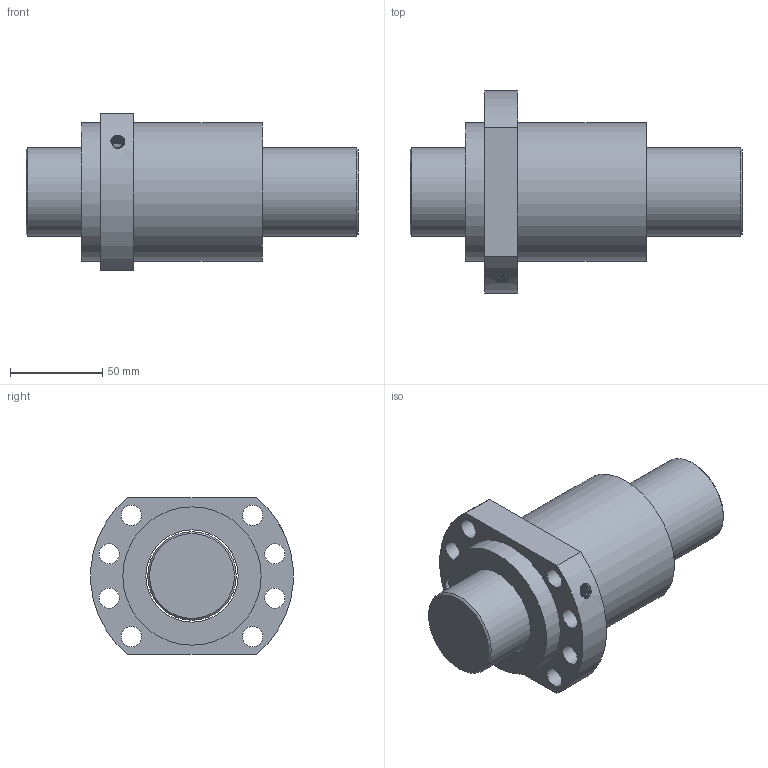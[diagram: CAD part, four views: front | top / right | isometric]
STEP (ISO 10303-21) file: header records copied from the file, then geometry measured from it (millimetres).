
FILE_DESCRIPTION (( 'STEP AP203' ), '1' );
FILE_NAME ('SFA5020-3.8.STEP', '2023-08-16T08:31:55', ( '' ), ( '' ), 'SwSTEP 2.0', 'SolidWorks 2022', '' );
FILE_SCHEMA (( 'CONFIG_CONTROL_DESIGN' ));
Length unit declared in the file: millimetre
Products named in the file (1): SFA5020-3.8
Bounding box: 180 x 109.65 x 85 mm (x, y, z)
Volume: 621949.7 mm3; surface area: 87467.1 mm2
Topology: 2 solids, 2 shells, 32 faces, 76 edges, 50 vertices
Faces by surface type: cylinder 18, plane 9, cone 3, bspline 2
Full cylindrical faces by diameter (mm): 3 x1, 6.917 x1, 11 x8, 48 x1, 50 x1, 75 x2
Entity records: 2373 total; most frequent: CARTESIAN_POINT 1615, DIRECTION 140, ORIENTED_EDGE 108, EDGE_LOOP 71, AXIS2_PLACEMENT_3D 66, EDGE_CURVE 54, FACE_OUTER_BOUND 46, VERTEX_POINT 45
